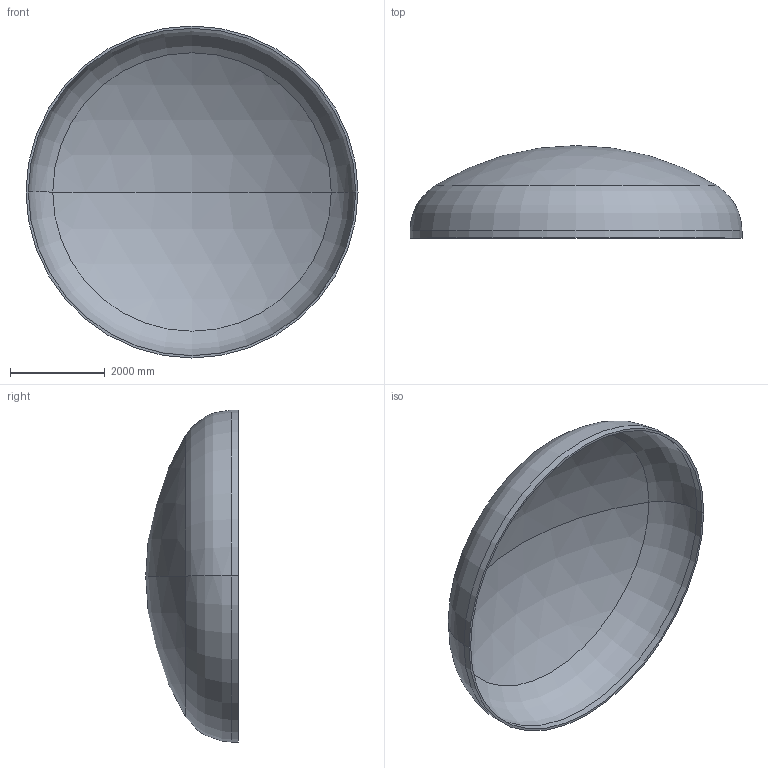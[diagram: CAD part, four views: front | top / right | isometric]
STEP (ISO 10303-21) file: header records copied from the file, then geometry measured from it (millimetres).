
FILE_DESCRIPTION (( 'STEP AP203' ), '1' );
FILE_NAME ('DIN 28013 Korbbogenform_-_Boden DIN 28013 - 7000 x 150 - I - s=50.step', '2016-07-04T10:48:02', ( '' ), ( '' ), 'SwSTEP 2.0', 'SolidWorks 2013', '' );
FILE_SCHEMA (( 'CONFIG_CONTROL_DESIGN' ));
Length unit declared in the file: millimetre
Products named in the file (1): DIN 28013 Korbbogenform_-_Boden DIN 28013 - 7000 x 150 - I - s=50
Bounding box: 7000 x 1951.17 x 7000 mm (x, y, z)
Volume: 2804716538.7 mm3; surface area: 113285557.9 mm2
Topology: 1 solids, 1 shells, 13 faces, 24 edges, 14 vertices
Faces by surface type: torus 4, cylinder 4, sphere 4, plane 1
Entity records: 407 total; most frequent: DIRECTION 72, CARTESIAN_POINT 52, ORIENTED_EDGE 48, AXIS2_PLACEMENT_3D 34, EDGE_CURVE 24, CIRCLE 20, VERTEX_POINT 14, EDGE_LOOP 14
